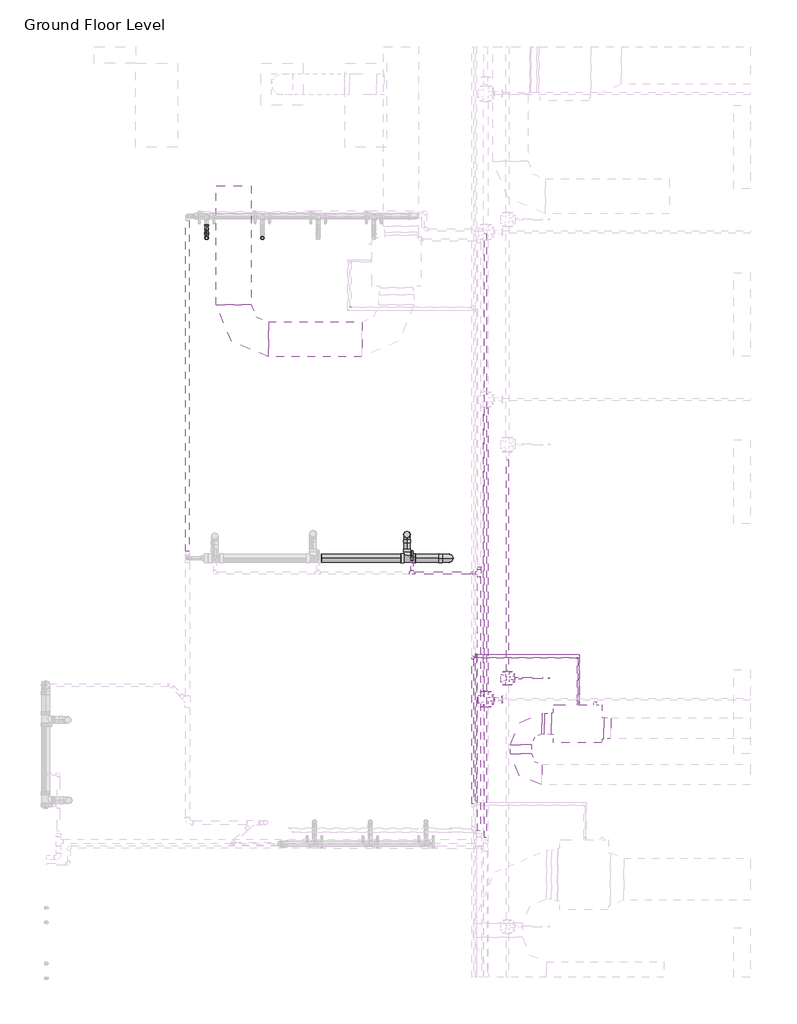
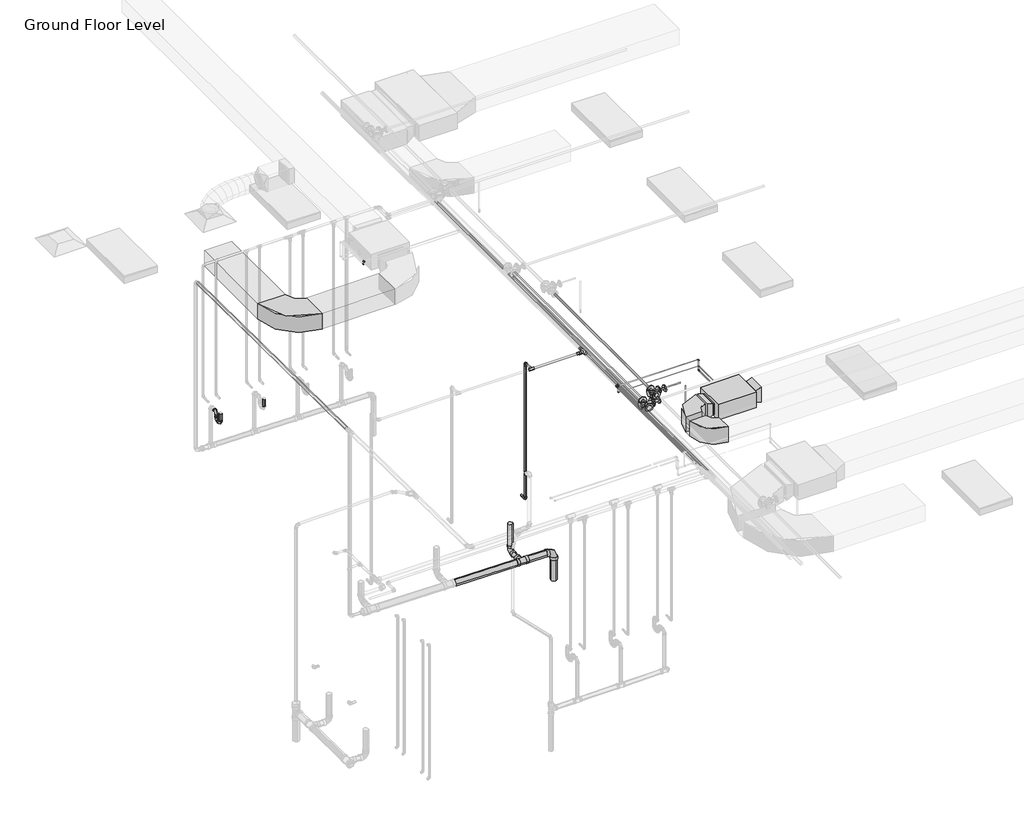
# One storey, part 21 of 75: 29 pipe segments, 26 pipe fittings, 5 duct fittings, 4 duct segments, 1 fire suppression terminal, 1 proxy.
"""IFC4 building model written with IfcOpenShell, lengths in millimetres."""

from ifc_helpers import new_model, si_unit, point, frame, frame_2d, origin, place, context, project, spatial, polyline, circle_curve, trimmed, segment, composite_curve, outline, extrude, transform, mapped, element, save
from components import fcu_daikin_iu_27d020f6, m_rectangular_elbow_radius_1_w_618da153, m_rectangular_elbow_radius_1_w_abe20169, m_rectangular_transition_angle_45_degree_bfac0661, m_rectangular_transition_angle_45_degree_d4666cfa, m_sprinkler_pendent_15_mm_pendent_06fcbd8e, m_bend_pvc_sch_40_dwv_standard_a4b99d37, m_bend_pvc_sch_40_dwv_standard_b7b4a97e, m_bend_pvc_sch_40_dwv_standard_1e7bdcc1, m_bend_pvc_sch_40_dwv_standard_776e50c4, m_elbow_generic_standard_a088f956, m_elbow_generic_standard_2a704253, m_reducer_flanged_cs_class_150_standard_d42b2106, m_reducer_flanged_cs_class_150_standard_a7631c35, m_tee_generic_standard_5b2ed4d4, m_tee_generic_standard_5078887e, m_tee_reducing_sanitary_pvc_sch_40_dwv_standard_b49161a9, m_tee_round_base_flanged_cs_class_150_standard_dd767e04, m_tee_round_base_flanged_cs_class_150_standard_7e5987a1, m_transition_generic_standard_44e35838, m_transition_generic_standard_2d362458, standard_517a5a8d, standard_72b35c3b, standard_08ff6011, standard_d0d0b892

model = new_model("IFC4")

# Units and contexts
model_context = context("Model", 3, world=origin())
ifc_project = project(units=[si_unit("LENGTHUNIT", "METRE", prefix="MILLI")], contexts=[model_context])

# Site, building, storey
site = spatial("IfcSite", under=ifc_project)
building = spatial("IfcBuilding", under=site)
storey = spatial("IfcBuildingStorey", under=building, Name="Ground Floor Level", Elevation=900.0)

# Proxy
placement = place(None, origin())
fcu_daikin_iu_shape = fcu_daikin_iu_27d020f6(model_context)
element("IfcBuildingElementProxy", 1, Name="FCU-DAIKIN IU : 2.3kW, 230V/50Hz/1Ph", ObjectType="FCU-DAIKIN IU : 2.3kW, 230V/50Hz/1Ph", at=placement, inside=storey, context=model_context, shape_type="MappedRepresentation", body=[
    mapped(fcu_daikin_iu_shape, transform((7003.8644074, -31136.6877703, 4080.0), x_axis=(0.0, 1.0, 0.0), y_axis=(-1.0, 0.0, 0.0), z_axis=(0.0, 0.0, 1.0))),
])

# Duct fittings
m_rectangular_elbow_radius_1_w_shape = m_rectangular_elbow_radius_1_w_618da153(model_context)
element("IfcDuctFitting", 2, ObjectType="M_Rectangular Elbow - Radius : 1 W", at=placement, inside=storey, context=model_context, shape_type="MappedRepresentation", body=[
    mapped(m_rectangular_elbow_radius_1_w_shape, transform((6188.4644074, -31136.6877703, 4221.2), x_axis=(-1.0, 0.0, 0.0), y_axis=(0.0, -1.0, 0.0), z_axis=(0.0, 0.0, 1.0))),
])
element("IfcDuctFitting", 3, ObjectType="M_Rectangular Elbow - Radius : 1 W", at=placement, inside=storey, context=model_context, shape_type="MappedRepresentation", body=[
    mapped(m_rectangular_elbow_radius_1_w_shape, transform((6188.4644074, -31864.7846466, 4221.2), x_axis=(0.0, -1.0, 0.0), y_axis=(1.0, 0.0, 0.0), z_axis=(0.0, 0.0, 1.0))),
])
m_rectangular_elbow_radius_1_w_2_shape = m_rectangular_elbow_radius_1_w_abe20169(model_context)
element("IfcDuctFitting", 4, ObjectType="M_Rectangular Elbow - Radius : 1 W", at=placement, inside=storey, context=model_context, shape_type="MappedRepresentation", body=[
    mapped(m_rectangular_elbow_radius_1_w_2_shape, transform((2065.6581888, -25622.6440715, 4075.2875), x_axis=(0.0, -1.0, 0.0), y_axis=(1.0, 0.0, 0.0), z_axis=(0.0, 0.0, 1.0))),
])
m_rectangular_transition_angle_45_degree_shape = m_rectangular_transition_angle_45_degree_bfac0661(model_context)
element("IfcDuctFitting", 5, ObjectType="M_Rectangular Transition - Angle : 45 Degree", at=placement, inside=storey, context=model_context, shape_type="MappedRepresentation", body=[
    mapped(m_rectangular_transition_angle_45_degree_shape, transform((6628.4644074, -31136.6877703, 4221.2), x_axis=(-1.0, 0.0, 0.0), y_axis=(0.0, -1.0, 0.0), z_axis=(0.0, 0.0, 1.0))),
])
m_rectangular_transition_angle_45_degree_2_shape = m_rectangular_transition_angle_45_degree_d4666cfa(model_context)
element("IfcDuctFitting", 6, ObjectType="M_Rectangular Transition - Angle : 45 Degree", at=placement, inside=storey, context=model_context, shape_type="MappedRepresentation", body=[
    mapped(m_rectangular_transition_angle_45_degree_2_shape, transform((7379.2644074, -31200.1877703, 4245.9125), x_axis=(1.0, 0.0, 0.0), y_axis=(0.0, 1.0, 0.0), z_axis=(0.0, 0.0, 1.0))),
])

# Duct segments
element("IfcDuctSegment", 7, ObjectType="Radius Elbows / Taps", at=placement, inside=storey, context=model_context, shape_type="SweptSolid", body=[
    extrude(outline(polyline([(0.0, -500.0), (0.0, 0.0), (1339.9999945, 0.0), (1339.9999945, -500.0), (0.0, -500.0)])), frame((3905.660192, -25872.6440715, 3925.3054453), z_axis=(-1.3392036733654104e-05, 0.0, 0.9999999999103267), x_axis=(-0.9999999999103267, 0.0, -1.3392036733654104e-05)), (0.0, 0.0, 1.0), 300.0),
])
element("IfcDuctSegment", 8, ObjectType="Radius Elbows / Taps", at=placement, inside=storey, context=model_context, shape_type="SweptSolid", body=[
    extrude(outline(polyline([(2315.6581888, -25122.6440715), (1815.6581888, -25122.6440715), (1815.6581888, -23422.6440715), (2315.6581888, -23422.6440715), (2315.6581888, -25122.6440715)])), frame((0.0, 0.0, 3925.2875), z_axis=(0.0, 0.0, 1.0), x_axis=(1.0, 0.0, 0.0)), (0.0, 0.0, 1.0), 300.0),
])
element("IfcDuctSegment", 9, ObjectType="Radius Elbows / Taps", at=placement, inside=storey, context=model_context, shape_type="SweptSolid", body=[
    extrude(outline(polyline([(6525.0153563, -30986.6877703), (6525.0153563, -31286.6877703), (6488.4644074, -31286.6877703), (6488.4644074, -30986.6877703), (6525.0153563, -30986.6877703)])), frame((0.0, 0.0, 4071.2), z_axis=(0.0, 0.0, 1.0), x_axis=(1.0, 0.0, 0.0)), (0.0, 0.0, 1.0), 300.0),
])
element("IfcDuctSegment", 10, ObjectType="Radius Elbows / Taps", at=placement, inside=storey, context=model_context, shape_type="SweptSolid", body=[
    extrude(outline(polyline([(6038.4644074, -31436.6877703), (6338.4644074, -31436.6877703), (6338.4644074, -31564.7846466), (6038.4644074, -31564.7846466), (6038.4644074, -31436.6877703)])), frame((0.0, 0.0, 4071.2), z_axis=(0.0, 0.0, 1.0), x_axis=(1.0, 0.0, 0.0)), (0.0, 0.0, 1.0), 300.0),
])

# Fire suppression terminal
m_sprinkler_pendent_15_mm_pendent_shape = m_sprinkler_pendent_15_mm_pendent_06fcbd8e(model_context)
element("IfcFireSuppressionTerminal", 11, ObjectType="M_Sprinkler - Pendent : 15 mm Pendent", at=placement, inside=storey, context=model_context, shape_type="MappedRepresentation", body=[
    mapped(m_sprinkler_pendent_15_mm_pendent_shape, transform((6592.5481019, -30483.0742399, 3650.0), x_axis=(1.0, 0.0, 0.0), y_axis=(0.0, 1.0, 0.0), z_axis=(0.0, 0.0, 1.0))),
])

# Pipe fittings
m_bend_pvc_sch_40_dwv_standard_shape = m_bend_pvc_sch_40_dwv_standard_a4b99d37(model_context)
element("IfcPipeFitting", 12, ObjectType="M_Bend - PVC - Sch 40 - DWV : Standard", at=placement, inside=storey, context=model_context, shape_type="MappedRepresentation", body=[
    mapped(m_bend_pvc_sch_40_dwv_standard_shape, transform((4553.7150181, -28421.2419494, 454.489269), x_axis=(0.0, 0.0, -1.0), y_axis=(0.0, -1.0, 0.0), z_axis=(-1.0, 0.0, 0.0))),
])
m_bend_pvc_sch_40_dwv_standard_2_shape = m_bend_pvc_sch_40_dwv_standard_b7b4a97e(model_context)
element("IfcPipeFitting", 13, ObjectType="M_Bend - PVC - Sch 40 - DWV : Standard", at=placement, inside=storey, context=model_context, shape_type="MappedRepresentation", body=[
    mapped(m_bend_pvc_sch_40_dwv_standard_2_shape, transform((5158.4803359, -28761.5689421, 448.4416158), x_axis=(0.9999500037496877, 0.0, -0.00999950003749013), y_axis=(-0.00999950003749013, 0.0, -0.9999500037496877), z_axis=(0.0, 1.0, 0.0))),
])
m_bend_pvc_sch_40_dwv_standard_3_shape = m_bend_pvc_sch_40_dwv_standard_1e7bdcc1(model_context)
element("IfcPipeFitting", 14, ObjectType="M_Bend - PVC - Sch 40 - DWV : Standard", at=placement, inside=storey, context=model_context, shape_type="MappedRepresentation", body=[
    mapped(m_bend_pvc_sch_40_dwv_standard_3_shape, transform((1679.14976, -24168.3528577, 1360.0000049), x_axis=(0.0, 0.0, -1.0), y_axis=(0.0, 1.0, 0.0), z_axis=(1.0, 0.0, 0.0))),
])
m_bend_pvc_sch_40_dwv_standard_4_shape = m_bend_pvc_sch_40_dwv_standard_776e50c4(model_context)
element("IfcPipeFitting", 15, ObjectType="M_Bend - PVC - Sch 40 - DWV : Standard", at=placement, inside=storey, context=model_context, shape_type="MappedRepresentation", body=[
    mapped(m_bend_pvc_sch_40_dwv_standard_4_shape, transform((1679.14976, -24038.3523645, 1358.7), x_axis=(0.0, 0.9999500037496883, -0.009999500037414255), y_axis=(0.0, 0.009999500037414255, 0.9999500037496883), z_axis=(1.0, 0.0, 0.0))),
])
element("IfcPipeFitting", 16, ObjectType="M_Bend - PVC - Sch 40 - DWV : Standard", at=placement, inside=storey, context=model_context, shape_type="MappedRepresentation", body=[
    mapped(m_bend_pvc_sch_40_dwv_standard_4_shape, transform((1679.14976, -24038.3523645, 1510.0493267), x_axis=(0.0, 0.0, 1.0), y_axis=(0.0, 1.0, 0.0), z_axis=(-1.0, 0.0, 0.0))),
])
m_elbow_generic_standard_shape = m_elbow_generic_standard_a088f956(model_context)
element("IfcPipeFitting", 17, ObjectType="M_Elbow - Generic : Standard", at=placement, inside=storey, context=model_context, shape_type="MappedRepresentation", body=[
    mapped(m_elbow_generic_standard_shape, transform((7003.8644074, -30187.4513653, 4390.0), x_axis=(1.0, 0.0, 0.0), y_axis=(0.0, 0.0, -1.0), z_axis=(0.0, 1.0, 0.0))),
])
element("IfcPipeFitting", 18, ObjectType="M_Elbow - Generic : Standard", at=placement, inside=storey, context=model_context, shape_type="MappedRepresentation", body=[
    mapped(m_elbow_generic_standard_shape, transform((7003.8644074, -30187.4513653, 4180.0), x_axis=(0.0, 0.0, -1.0), y_axis=(0.0, -1.0, 0.0), z_axis=(-1.0, 0.0, 0.0))),
])
element("IfcPipeFitting", 19, ObjectType="M_Elbow - Generic : Standard", at=placement, inside=storey, context=model_context, shape_type="MappedRepresentation", body=[
    mapped(m_elbow_generic_standard_shape, transform((3741.7995393, -25162.0896488, 4390.0), x_axis=(0.0, -1.0, 0.0), y_axis=(1.0, 0.0, 0.0), z_axis=(0.0, 0.0, 1.0))),
])
m_elbow_generic_standard_2_shape = m_elbow_generic_standard_2a704253(model_context)
element("IfcPipeFitting", 20, ObjectType="M_Elbow - Generic : Standard", at=placement, inside=storey, context=model_context, shape_type="MappedRepresentation", body=[
    mapped(m_elbow_generic_standard_2_shape, transform((3705.4496688, -25206.4899508, 4377.5), x_axis=(0.0, -1.0, 0.0), y_axis=(1.0, 0.0, 0.0), z_axis=(0.0, 0.0, 1.0))),
])
element("IfcPipeFitting", 21, ObjectType="M_Elbow - Generic : Standard", at=placement, inside=storey, context=model_context, shape_type="MappedRepresentation", body=[
    mapped(m_elbow_generic_standard_2_shape, transform((7028.8644074, -30144.9316538, 4230.8), x_axis=(0.0, 1.0, 0.0), y_axis=(-1.0, 0.0, 0.0), z_axis=(0.0, 0.0, 1.0))),
])
element("IfcPipeFitting", 22, ObjectType="M_Elbow - Generic : Standard", at=placement, inside=storey, context=model_context, shape_type="MappedRepresentation", body=[
    mapped(m_elbow_generic_standard_2_shape, transform((5543.9904113, -30144.9316538, 4230.8), x_axis=(0.0, 0.0, -1.0), y_axis=(1.0, 0.0, 0.0), z_axis=(0.0, -1.0, 0.0))),
])
m_reducer_flanged_cs_class_150_standard_shape = m_reducer_flanged_cs_class_150_standard_d42b2106(model_context)
element("IfcPipeFitting", 23, ObjectType="M_Reducer - Flanged - CS - Class 150 : Standard", at=placement, inside=storey, context=model_context, shape_type="MappedRepresentation", body=[
    mapped(m_reducer_flanged_cs_class_150_standard_shape, transform((6097.7664057, -30483.0742399, 4291.2754753), x_axis=(1.0, 0.0, 0.0), y_axis=(0.0, 0.0, -1.0), z_axis=(0.0, 1.0, 0.0))),
])
m_reducer_flanged_cs_class_150_standard_2_shape = m_reducer_flanged_cs_class_150_standard_a7631c35(model_context)
element("IfcPipeFitting", 24, ObjectType="M_Reducer - Flanged - CS - Class 150 : Standard", at=placement, inside=storey, context=model_context, shape_type="MappedRepresentation", body=[
    mapped(m_reducer_flanged_cs_class_150_standard_2_shape, transform((5798.6174894, -30785.1783804, 4347.5), x_axis=(1.0, 0.0, 0.0), y_axis=(0.0, 0.0, 1.0), z_axis=(0.0, -1.0, 0.0))),
])
m_tee_generic_standard_shape = m_tee_generic_standard_5b2ed4d4(model_context)
element("IfcPipeFitting", 25, ObjectType="M_Tee - Generic : Standard", at=placement, inside=storey, context=model_context, shape_type="MappedRepresentation", body=[
    mapped(m_tee_generic_standard_shape, transform((5543.9904113, -30144.9316538, 4377.5), x_axis=(0.0, -1.0, 0.0), y_axis=(0.0, 0.0, 1.0), z_axis=(-1.0, 0.0, 0.0))),
])
m_tee_generic_standard_2_shape = m_tee_generic_standard_5078887e(model_context)
element("IfcPipeFitting", 26, ObjectType="M_Tee - Generic : Standard", at=placement, inside=storey, context=model_context, shape_type="MappedRepresentation", body=[
    mapped(m_tee_generic_standard_2_shape, transform((5497.8951827, -30187.4513653, 4390.0), x_axis=(0.0, -1.0, 0.0), y_axis=(-1.0, 0.0, 0.0), z_axis=(0.0, 0.0, -1.0))),
])
m_tee_reducing_sanitary_pvc_sch_40_dwv_standard_shape = m_tee_reducing_sanitary_pvc_sch_40_dwv_standard_b49161a9(model_context)
element("IfcPipeFitting", 27, ObjectType="M_Tee Reducing Sanitary - PVC - Sch 40 - DWV : Standard", at=placement, inside=storey, context=model_context, shape_type="MappedRepresentation", body=[
    mapped(m_tee_reducing_sanitary_pvc_sch_40_dwv_standard_shape, transform((4553.7150181, -28761.5689421, 454.489269), x_axis=(-0.9999500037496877, 0.0, 0.009999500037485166), y_axis=(0.0, -1.0, 0.0), z_axis=(0.009999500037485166, 0.0, 0.9999500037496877))),
])
m_tee_round_base_flanged_cs_class_150_standard_shape = m_tee_round_base_flanged_cs_class_150_standard_dd767e04(model_context)
element("IfcPipeFitting", 28, ObjectType="M_Tee Round Base - Flanged - CS - Class 150 : Standard", at=placement, inside=storey, context=model_context, shape_type="MappedRepresentation", body=[
    mapped(m_tee_round_base_flanged_cs_class_150_standard_shape, transform((5684.6174894, -30785.1783804, 4347.5), x_axis=(0.0, -1.0, 0.0), y_axis=(-1.0, 0.0, 0.0), z_axis=(0.0, 0.0, -1.0))),
])
m_tee_round_base_flanged_cs_class_150_standard_2_shape = m_tee_round_base_flanged_cs_class_150_standard_7e5987a1(model_context)
element("IfcPipeFitting", 29, ObjectType="M_Tee Round Base - Flanged - CS - Class 150 : Standard", at=placement, inside=storey, context=model_context, shape_type="MappedRepresentation", body=[
    mapped(m_tee_round_base_flanged_cs_class_150_standard_2_shape, transform((5997.057812, -30483.0742399, 4291.0943441), x_axis=(0.0, 1.0, 0.0), y_axis=(-1.0, 0.0, 0.0), z_axis=(0.0, 0.0, 1.0))),
])
m_transition_generic_standard_shape = m_transition_generic_standard_44e35838(model_context)
element("IfcPipeFitting", 30, ObjectType="M_Transition - Generic : Standard", at=placement, inside=storey, context=model_context, shape_type="MappedRepresentation", body=[
    mapped(m_transition_generic_standard_shape, transform((5521.7076827, -30187.4513653, 4390.0), x_axis=(1.0, 0.0, 0.0), y_axis=(0.0, 1.0, 0.0), z_axis=(0.0, 0.0, 1.0))),
])
m_transition_generic_standard_2_shape = m_transition_generic_standard_2d362458(model_context)
element("IfcPipeFitting", 31, ObjectType="M_Transition - Generic : Standard", at=placement, inside=storey, context=model_context, shape_type="MappedRepresentation", body=[
    mapped(m_transition_generic_standard_2_shape, transform((5543.9904113, -30144.9316538, 4356.8625), x_axis=(0.0, 0.0, -1.0), y_axis=(1.0, 0.0, 0.0), z_axis=(0.0, -1.0, 0.0))),
])
standard_shape = standard_517a5a8d(model_context)
element("IfcPipeFitting", 32, ObjectType="M_Elbow - CPVC - Sch 40 : Standard", at=placement, inside=storey, context=model_context, shape_type="MappedRepresentation", body=[
    mapped(standard_shape, transform((4627.1152882, -28774.7846466, 1655.0), x_axis=(0.0, -1.0, 0.0), y_axis=(0.0, 0.0, 1.0), z_axis=(-1.0, 0.0, 0.0))),
])
element("IfcPipeFitting", 33, ObjectType="M_Elbow - CPVC - Sch 40 : Standard", at=placement, inside=storey, context=model_context, shape_type="MappedRepresentation", body=[
    mapped(standard_shape, transform((4627.1152882, -28774.7846466, 4300.0), x_axis=(0.0, 0.0, 1.0), y_axis=(0.0, -1.0, 0.0), z_axis=(1.0, 0.0, 0.0))),
])
standard_2_shape = standard_72b35c3b(model_context)
element("IfcPipeFitting", 34, ObjectType="M_Tee - CPVC - Sch 40 : Standard", at=placement, inside=storey, context=model_context, shape_type="MappedRepresentation", body=[
    mapped(standard_2_shape, transform((4627.1152882, -28974.7846466, 4300.0), x_axis=(-1.0, 0.0, 0.0), y_axis=(0.0, -1.0, 0.0), z_axis=(0.0, 0.0, 1.0))),
])
standard_3_shape = standard_08ff6011(model_context)
element("IfcPipeFitting", 35, ObjectType="M_Tee - CPVC - Sch 40 : Standard", at=placement, inside=storey, context=model_context, shape_type="MappedRepresentation", body=[
    mapped(standard_3_shape, transform((5589.646628, -28974.7846466, 4300.0), x_axis=(0.0, 1.0, 0.0), y_axis=(1.0, 0.0, 0.0), z_axis=(0.0, 0.0, -1.0))),
])
standard_4_shape = standard_d0d0b892(model_context)
element("IfcPipeFitting", 36, ObjectType="M_Coupling Reducing - CPVC - Sch 40 : Standard", at=placement, inside=storey, context=model_context, shape_type="MappedRepresentation", body=[
    mapped(standard_4_shape, transform((5589.646628, -28920.8096466, 4300.0), x_axis=(0.0, 1.0, 0.0), y_axis=(-1.0, 0.0, 0.0), z_axis=(0.0, 0.0, 1.0))),
])
element("IfcPipeFitting", 37, ObjectType="M_Coupling Reducing - CPVC - Sch 40 : Standard", at=placement, inside=storey, context=model_context, shape_type="MappedRepresentation", body=[
    mapped(standard_4_shape, transform((5535.671628, -28974.7846466, 4300.0), x_axis=(-1.0, 0.0, 0.0), y_axis=(0.0, -1.0, 0.0), z_axis=(0.0, 0.0, 1.0))),
])

# Pipe segments
element("IfcPipeSegment", 38, ObjectType="CPVC", at=placement, inside=storey, context=model_context, shape_type="SweptSolid", body=[
    extrude(outline(composite_curve([segment(trimmed(circle_curve(frame_2d((1655.0, 4627.1152882)), 16.7005), [point((1655.0, 4610.4147882))], [point((1638.2995, 4627.1152882))], False, "CARTESIAN"), True, "CONTINUOUS"), segment(trimmed(circle_curve(frame_2d((1655.0, 4627.1152882)), 16.7005), [point((1638.2995, 4627.1152882))], [point((1655.0, 4643.8157882))], False, "CARTESIAN"), True, "CONTINUOUS"), segment(trimmed(circle_curve(frame_2d((1655.0, 4627.1152882)), 16.7005), [point((1655.0, 4643.8157882))], [point((1671.7005, 4627.1152882))], False, "CARTESIAN"), True, "CONTINUOUS"), segment(trimmed(circle_curve(frame_2d((1655.0, 4627.1152882)), 16.7005), [point((1671.7005, 4627.1152882))], [point((1655.0, 4610.4147882))], False, "CARTESIAN"), True, "CONTINUOUS")], self_intersect=False)), frame((0.0, -28731.5220966, 0.0), z_axis=(0.0, 1.0, 0.0), x_axis=(0.0, 0.0, 1.0)), (0.0, 0.0, 1.0), 76.73745),
])
element("IfcPipeSegment", 39, ObjectType="CPVC", at=placement, inside=storey, context=model_context, shape_type="SweptSolid", body=[
    extrude(outline(composite_curve([segment(trimmed(circle_curve(frame_2d((4300.0, 4627.1152882)), 16.7005), [point((4300.0, 4610.4147882))], [point((4283.2995, 4627.1152882))], False, "CARTESIAN"), True, "CONTINUOUS"), segment(trimmed(circle_curve(frame_2d((4300.0, 4627.1152882)), 16.7005), [point((4283.2995, 4627.1152882))], [point((4300.0, 4643.8157882))], False, "CARTESIAN"), True, "CONTINUOUS"), segment(trimmed(circle_curve(frame_2d((4300.0, 4627.1152882)), 16.7005), [point((4300.0, 4643.8157882))], [point((4316.7005, 4627.1152882))], False, "CARTESIAN"), True, "CONTINUOUS"), segment(trimmed(circle_curve(frame_2d((4300.0, 4627.1152882)), 16.7005), [point((4316.7005, 4627.1152882))], [point((4300.0, 4610.4147882))], False, "CARTESIAN"), True, "CONTINUOUS")], self_intersect=False)), frame((0.0, -28935.0844466, 0.0), z_axis=(0.0, 1.0, 0.0), x_axis=(0.0, 0.0, 1.0)), (0.0, 0.0, 1.0), 117.03725),
])
element("IfcPipeSegment", 40, ObjectType="CPVC", at=placement, inside=storey, context=model_context, shape_type="SweptSolid", body=[
    extrude(outline(composite_curve([segment(trimmed(circle_curve(frame_2d((4627.1152882, -28774.7846466)), 16.7005), [point((4610.4147882, -28774.7846466))], [point((4627.1152882, -28758.0841466))], False, "CARTESIAN"), True, "CONTINUOUS"), segment(trimmed(circle_curve(frame_2d((4627.1152882, -28774.7846466)), 16.7005), [point((4627.1152882, -28758.0841466))], [point((4643.8157882, -28774.7846466))], False, "CARTESIAN"), True, "CONTINUOUS"), segment(trimmed(circle_curve(frame_2d((4627.1152882, -28774.7846466)), 16.7005), [point((4643.8157882, -28774.7846466))], [point((4627.1152882, -28791.4851466))], False, "CARTESIAN"), True, "CONTINUOUS"), segment(trimmed(circle_curve(frame_2d((4627.1152882, -28774.7846466)), 16.7005), [point((4627.1152882, -28791.4851466))], [point((4610.4147882, -28774.7846466))], False, "CARTESIAN"), True, "CONTINUOUS")], self_intersect=False)), frame((0.0, 0.0, 1698.26255), z_axis=(0.0, 0.0, 1.0), x_axis=(1.0, 0.0, 0.0)), (0.0, 0.0, 1.0), 2558.4749),
])
element("IfcPipeSegment", 41, ObjectType="CPVC", at=placement, inside=storey, context=model_context, shape_type="SweptSolid", body=[
    extrude(outline(composite_curve([segment(trimmed(circle_curve(frame_2d((-28974.7846466, 4300.0)), 16.7005), [point((-28958.0841466, 4300.0))], [point((-28974.7846466, 4283.2995))], False, "CARTESIAN"), True, "CONTINUOUS"), segment(trimmed(circle_curve(frame_2d((-28974.7846466, 4300.0)), 16.7005), [point((-28974.7846466, 4283.2995))], [point((-28991.4851466, 4300.0))], False, "CARTESIAN"), True, "CONTINUOUS"), segment(trimmed(circle_curve(frame_2d((-28974.7846466, 4300.0)), 16.7005), [point((-28991.4851466, 4300.0))], [point((-28974.7846466, 4316.7005))], False, "CARTESIAN"), True, "CONTINUOUS"), segment(trimmed(circle_curve(frame_2d((-28974.7846466, 4300.0)), 16.7005), [point((-28974.7846466, 4316.7005))], [point((-28958.0841466, 4300.0))], False, "CARTESIAN"), True, "CONTINUOUS")], self_intersect=False)), frame((4666.8154882, 0.0, 0.0), z_axis=(1.0, 0.0, 0.0), x_axis=(0.0, 1.0, 0.0)), (0.0, 0.0, 1.0), 802.7372648),
])
element("IfcPipeSegment", 42, ObjectType="CPVC", at=placement, inside=storey, context=model_context, shape_type="SweptSolid", body=[
    extrude(outline(composite_curve([segment(trimmed(circle_curve(frame_2d((4300.0, 5589.646628)), 21.082), [point((4300.0, 5568.564628))], [point((4278.918, 5589.646628))], False, "CARTESIAN"), True, "CONTINUOUS"), segment(trimmed(circle_curve(frame_2d((4300.0, 5589.646628)), 21.082), [point((4278.918, 5589.646628))], [point((4300.0, 5610.728628))], False, "CARTESIAN"), True, "CONTINUOUS"), segment(trimmed(circle_curve(frame_2d((4300.0, 5589.646628)), 21.082), [point((4300.0, 5610.728628))], [point((4321.082, 5589.646628))], False, "CARTESIAN"), True, "CONTINUOUS"), segment(trimmed(circle_curve(frame_2d((4300.0, 5589.646628)), 21.082), [point((4321.082, 5589.646628))], [point((4300.0, 5568.564628))], False, "CARTESIAN"), True, "CONTINUOUS")], self_intersect=False)), frame((0.0, -32672.9715951, 0.0), z_axis=(0.0, 1.0, 0.0), x_axis=(0.0, 0.0, 1.0)), (0.0, 0.0, 1.0), 3644.2119485),
])
element("IfcPipeSegment", 43, ObjectType="CPVC", at=placement, inside=storey, context=model_context, shape_type="SweptSolid", body=[
    extrude(outline(composite_curve([segment(trimmed(circle_curve(frame_2d((4250.0, 5680.5575802)), 16.7005), [point((4250.0, 5697.2580802))], [point((4266.7005, 5680.5575802))], False, "CARTESIAN"), True, "CONTINUOUS"), segment(trimmed(circle_curve(frame_2d((4250.0, 5680.5575802)), 16.7005), [point((4266.7005, 5680.5575802))], [point((4250.0, 5663.8570802))], False, "CARTESIAN"), True, "CONTINUOUS"), segment(trimmed(circle_curve(frame_2d((4250.0, 5680.5575802)), 16.7005), [point((4250.0, 5663.8570802))], [point((4233.2995, 5680.5575802))], False, "CARTESIAN"), True, "CONTINUOUS"), segment(trimmed(circle_curve(frame_2d((4250.0, 5680.5575802)), 16.7005), [point((4233.2995, 5680.5575802))], [point((4250.0, 5697.2580802))], False, "CARTESIAN"), True, "CONTINUOUS")], self_intersect=False)), frame((0.0, -32774.921633, 0.0), z_axis=(0.0, 1.0, 0.0), x_axis=(0.0, 0.0, 1.0)), (0.0, 0.0, 1.0), 8676.73745),
])
element("IfcPipeSegment", 44, ObjectType="Copper", at=placement, inside=storey, context=model_context, shape_type="SweptSolid", body=[
    extrude(outline(composite_curve([segment(trimmed(circle_curve(frame_2d((-30187.4513653, 4390.0)), 6.5), [point((-30193.9513653, 4390.0))], [point((-30187.4513653, 4396.5))], False, "CARTESIAN"), True, "CONTINUOUS"), segment(trimmed(circle_curve(frame_2d((-30187.4513653, 4390.0)), 6.5), [point((-30187.4513653, 4396.5))], [point((-30180.9513653, 4390.0))], False, "CARTESIAN"), True, "CONTINUOUS"), segment(trimmed(circle_curve(frame_2d((-30187.4513653, 4390.0)), 6.5), [point((-30180.9513653, 4390.0))], [point((-30187.4513653, 4383.5))], False, "CARTESIAN"), True, "CONTINUOUS"), segment(trimmed(circle_curve(frame_2d((-30187.4513653, 4390.0)), 6.5), [point((-30187.4513653, 4383.5))], [point((-30193.9513653, 4390.0))], False, "CARTESIAN"), True, "CONTINUOUS")], self_intersect=False)), frame((5527.2639327, 0.0, 0.0), z_axis=(1.0, 0.0, 0.0), x_axis=(0.0, 1.0, 0.0)), (0.0, 0.0, 1.0), 1462.3129748),
])
element("IfcPipeSegment", 45, ObjectType="Copper", at=placement, inside=storey, context=model_context, shape_type="SweptSolid", body=[
    extrude(outline(composite_curve([segment(trimmed(circle_curve(frame_2d((4390.0, 5497.8951827)), 9.75), [point((4390.0, 5507.6451827))], [point((4399.75, 5497.8951827))], False, "CARTESIAN"), True, "CONTINUOUS"), segment(trimmed(circle_curve(frame_2d((4390.0, 5497.8951827)), 9.75), [point((4399.75, 5497.8951827))], [point((4390.0, 5488.1451827))], False, "CARTESIAN"), True, "CONTINUOUS"), segment(trimmed(circle_curve(frame_2d((4390.0, 5497.8951827)), 9.75), [point((4390.0, 5488.1451827))], [point((4380.25, 5497.8951827))], False, "CARTESIAN"), True, "CONTINUOUS"), segment(trimmed(circle_curve(frame_2d((4390.0, 5497.8951827)), 9.75), [point((4380.25, 5497.8951827))], [point((4390.0, 5507.6451827))], False, "CARTESIAN"), True, "CONTINUOUS")], self_intersect=False)), frame((0.0, -32283.6388653, 0.0), z_axis=(0.0, 1.0, 0.0), x_axis=(0.0, 0.0, 1.0)), (0.0, 0.0, 1.0), 2072.375),
])
element("IfcPipeSegment", 46, ObjectType="Copper", at=placement, inside=storey, context=model_context, shape_type="SweptSolid", body=[
    extrude(outline(composite_curve([segment(trimmed(circle_curve(frame_2d((4180.0, 7003.8644074)), 6.5), [point((4180.0, 6997.3644074))], [point((4173.5, 7003.8644074))], False, "CARTESIAN"), True, "CONTINUOUS"), segment(trimmed(circle_curve(frame_2d((4180.0, 7003.8644074)), 6.5), [point((4173.5, 7003.8644074))], [point((4180.0, 7010.3644074))], False, "CARTESIAN"), True, "CONTINUOUS"), segment(trimmed(circle_curve(frame_2d((4180.0, 7003.8644074)), 6.5), [point((4180.0, 7010.3644074))], [point((4186.5, 7003.8644074))], False, "CARTESIAN"), True, "CONTINUOUS"), segment(trimmed(circle_curve(frame_2d((4180.0, 7003.8644074)), 6.5), [point((4186.5, 7003.8644074))], [point((4180.0, 6997.3644074))], False, "CARTESIAN"), True, "CONTINUOUS")], self_intersect=False)), frame((0.0, -30823.5877703, 0.0), z_axis=(0.0, 1.0, 0.0), x_axis=(0.0, 0.0, 1.0)), (0.0, 0.0, 1.0), 621.8489049),
])
element("IfcPipeSegment", 47, ObjectType="Copper", at=placement, inside=storey, context=model_context, shape_type="SweptSolid", body=[
    extrude(outline(composite_curve([segment(trimmed(circle_curve(frame_2d((4230.8, 7028.8644074)), 3.35), [point((4230.8, 7025.5144074))], [point((4227.45, 7028.8644074))], False, "CARTESIAN"), True, "CONTINUOUS"), segment(trimmed(circle_curve(frame_2d((4230.8, 7028.8644074)), 3.35), [point((4227.45, 7028.8644074))], [point((4230.8, 7032.2144074))], False, "CARTESIAN"), True, "CONTINUOUS"), segment(trimmed(circle_curve(frame_2d((4230.8, 7028.8644074)), 3.35), [point((4230.8, 7032.2144074))], [point((4234.15, 7028.8644074))], False, "CARTESIAN"), True, "CONTINUOUS"), segment(trimmed(circle_curve(frame_2d((4230.8, 7028.8644074)), 3.35), [point((4234.15, 7028.8644074))], [point((4230.8, 7025.5144074))], False, "CARTESIAN"), True, "CONTINUOUS")], self_intersect=False)), frame((0.0, -30823.5877703, 0.0), z_axis=(0.0, 1.0, 0.0), x_axis=(0.0, 0.0, 1.0)), (0.0, 0.0, 1.0), 667.5186165),
])
element("IfcPipeSegment", 48, ObjectType="Copper", at=placement, inside=storey, context=model_context, shape_type="SweptSolid", body=[
    extrude(outline(composite_curve([segment(trimmed(circle_curve(frame_2d((7003.8644074, -30187.4513653)), 6.5), [point((7010.3644074, -30187.4513653))], [point((7003.8644074, -30193.9513653))], False, "CARTESIAN"), True, "CONTINUOUS"), segment(trimmed(circle_curve(frame_2d((7003.8644074, -30187.4513653)), 6.5), [point((7003.8644074, -30193.9513653))], [point((6997.3644074, -30187.4513653))], False, "CARTESIAN"), True, "CONTINUOUS"), segment(trimmed(circle_curve(frame_2d((7003.8644074, -30187.4513653)), 6.5), [point((6997.3644074, -30187.4513653))], [point((7003.8644074, -30180.9513653))], False, "CARTESIAN"), True, "CONTINUOUS"), segment(trimmed(circle_curve(frame_2d((7003.8644074, -30187.4513653)), 6.5), [point((7003.8644074, -30180.9513653))], [point((7010.3644074, -30187.4513653))], False, "CARTESIAN"), True, "CONTINUOUS")], self_intersect=False)), frame((0.0, 0.0, 4194.2875), z_axis=(0.0, 0.0, 1.0), x_axis=(1.0, 0.0, 0.0)), (0.0, 0.0, 1.0), 181.425),
])
element("IfcPipeSegment", 49, ObjectType="Copper", at=placement, inside=storey, context=model_context, shape_type="SweptSolid", body=[
    extrude(outline(composite_curve([segment(trimmed(circle_curve(frame_2d((4377.5, 5543.9904113)), 6.5), [point((4377.5, 5550.4904113))], [point((4384.0, 5543.9904113))], False, "CARTESIAN"), True, "CONTINUOUS"), segment(trimmed(circle_curve(frame_2d((4377.5, 5543.9904113)), 6.5), [point((4384.0, 5543.9904113))], [point((4377.5, 5537.4904113))], False, "CARTESIAN"), True, "CONTINUOUS"), segment(trimmed(circle_curve(frame_2d((4377.5, 5543.9904113)), 6.5), [point((4377.5, 5537.4904113))], [point((4371.0, 5543.9904113))], False, "CARTESIAN"), True, "CONTINUOUS"), segment(trimmed(circle_curve(frame_2d((4377.5, 5543.9904113)), 6.5), [point((4371.0, 5543.9904113))], [point((4377.5, 5550.4904113))], False, "CARTESIAN"), True, "CONTINUOUS")], self_intersect=False)), frame((0.0, -32244.2941538, 0.0), z_axis=(0.0, 1.0, 0.0), x_axis=(0.0, 0.0, 1.0)), (0.0, 0.0, 1.0), 2078.725),
])
element("IfcPipeSegment", 50, ObjectType="Copper", at=placement, inside=storey, context=model_context, shape_type="SweptSolid", body=[
    extrude(outline(composite_curve([segment(trimmed(circle_curve(frame_2d((5543.9904113, -30144.9316538)), 3.35), [point((5547.3404113, -30144.9316538))], [point((5543.9904113, -30148.2816538))], False, "CARTESIAN"), True, "CONTINUOUS"), segment(trimmed(circle_curve(frame_2d((5543.9904113, -30144.9316538)), 3.35), [point((5543.9904113, -30148.2816538))], [point((5540.6404113, -30144.9316538))], False, "CARTESIAN"), True, "CONTINUOUS"), segment(trimmed(circle_curve(frame_2d((5543.9904113, -30144.9316538)), 3.35), [point((5540.6404113, -30144.9316538))], [point((5543.9904113, -30141.5816538))], False, "CARTESIAN"), True, "CONTINUOUS"), segment(trimmed(circle_curve(frame_2d((5543.9904113, -30144.9316538)), 3.35), [point((5543.9904113, -30141.5816538))], [point((5547.3404113, -30144.9316538))], False, "CARTESIAN"), True, "CONTINUOUS")], self_intersect=False)), frame((0.0, 0.0, 4241.9375), z_axis=(0.0, 0.0, 1.0), x_axis=(1.0, 0.0, 0.0)), (0.0, 0.0, 1.0), 110.95625),
])
element("IfcPipeSegment", 51, ObjectType="Copper", at=placement, inside=storey, context=model_context, shape_type="SweptSolid", body=[
    extrude(outline(composite_curve([segment(trimmed(circle_curve(frame_2d((-30144.9316538, 4230.8)), 3.35), [point((-30148.2816538, 4230.8))], [point((-30144.9316538, 4234.15))], False, "CARTESIAN"), True, "CONTINUOUS"), segment(trimmed(circle_curve(frame_2d((-30144.9316538, 4230.8)), 3.35), [point((-30144.9316538, 4234.15))], [point((-30141.5816538, 4230.8))], False, "CARTESIAN"), True, "CONTINUOUS"), segment(trimmed(circle_curve(frame_2d((-30144.9316538, 4230.8)), 3.35), [point((-30141.5816538, 4230.8))], [point((-30144.9316538, 4227.45))], False, "CARTESIAN"), True, "CONTINUOUS"), segment(trimmed(circle_curve(frame_2d((-30144.9316538, 4230.8)), 3.35), [point((-30144.9316538, 4227.45))], [point((-30148.2816538, 4230.8))], False, "CARTESIAN"), True, "CONTINUOUS")], self_intersect=False)), frame((5555.1279113, 0.0, 0.0), z_axis=(1.0, 0.0, 0.0), x_axis=(0.0, 1.0, 0.0)), (0.0, 0.0, 1.0), 1462.5989961),
])
element("IfcPipeSegment", 52, ObjectType="PVC - DWV", at=placement, inside=storey, context=model_context, shape_type="SweptSolid", body=[
    extrude(outline(composite_curve([segment(trimmed(circle_curve(frame_2d((1679.14976, -24168.3528577)), 24.13), [point((1703.27976, -24168.3528577))], [point((1679.14976, -24192.4828577))], False, "CARTESIAN"), True, "CONTINUOUS"), segment(trimmed(circle_curve(frame_2d((1679.14976, -24168.3528577)), 24.13), [point((1679.14976, -24192.4828577))], [point((1655.01976, -24168.3528577))], False, "CARTESIAN"), True, "CONTINUOUS"), segment(trimmed(circle_curve(frame_2d((1679.14976, -24168.3528577)), 24.13), [point((1655.01976, -24168.3528577))], [point((1679.14976, -24144.2228577))], False, "CARTESIAN"), True, "CONTINUOUS"), segment(trimmed(circle_curve(frame_2d((1679.14976, -24168.3528577)), 24.13), [point((1679.14976, -24144.2228577))], [point((1703.27976, -24168.3528577))], False, "CARTESIAN"), True, "CONTINUOUS")], self_intersect=False)), frame((0.0, 0.0, 1421.8998049), z_axis=(0.0, 0.0, 1.0), x_axis=(1.0, 0.0, 0.0)), (0.0, 0.0, 1.0), 128.1001951),
])
element("IfcPipeSegment", 53, ObjectType="PVC - DWV", at=placement, inside=storey, context=model_context, shape_type="SweptSolid", body=[
    extrude(outline(composite_curve([segment(trimmed(circle_curve(frame_2d((0.0, -24.1299999)), 24.13), [point((24.13, -24.1299999))], [point((0.0, -48.2599999))], False, "CARTESIAN"), True, "CONTINUOUS"), segment(trimmed(circle_curve(frame_2d((0.0, -24.1299999)), 24.13), [point((0.0, -48.2599999))], [point((-24.13, -24.1299999))], False, "CARTESIAN"), True, "CONTINUOUS"), segment(trimmed(circle_curve(frame_2d((0.0, -24.1299999)), 24.13), [point((-24.13, -24.1299999))], [point((0.0, 0.0))], False, "CARTESIAN"), True, "CONTINUOUS"), segment(trimmed(circle_curve(frame_2d((0.0, -24.1299999)), 24.13), [point((0.0, 0.0))], [point((24.13, -24.1299999))], False, "CARTESIAN"), True, "CONTINUOUS")], self_intersect=False)), frame((1679.14976, -24100.0077818, 1383.4477606), z_axis=(0.0, -0.9999500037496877, 0.009999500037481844), x_axis=(1.0, 0.0, 0.0)), (0.0, 0.0, 1.0), 6.2073931),
])
element("IfcPipeSegment", 54, ObjectType="PVC - DWV", at=placement, inside=storey, context=model_context, shape_type="SweptSolid", body=[
    extrude(outline(composite_curve([segment(trimmed(circle_curve(frame_2d((1679.14976, -24038.3523645)), 24.13), [point((1655.01976, -24038.3523645))], [point((1679.14976, -24014.2223645))], False, "CARTESIAN"), True, "CONTINUOUS"), segment(trimmed(circle_curve(frame_2d((1679.14976, -24038.3523645)), 24.13), [point((1679.14976, -24014.2223645))], [point((1703.27976, -24038.3523645))], False, "CARTESIAN"), True, "CONTINUOUS"), segment(trimmed(circle_curve(frame_2d((1679.14976, -24038.3523645)), 24.13), [point((1703.27976, -24038.3523645))], [point((1679.14976, -24062.4823645))], False, "CARTESIAN"), True, "CONTINUOUS"), segment(trimmed(circle_curve(frame_2d((1679.14976, -24038.3523645)), 24.13), [point((1679.14976, -24062.4823645))], [point((1655.01976, -24038.3523645))], False, "CARTESIAN"), True, "CONTINUOUS")], self_intersect=False)), frame((0.0, 0.0, 1420.5998), z_axis=(0.0, 0.0, 1.0), x_axis=(1.0, 0.0, 0.0)), (0.0, 0.0, 1.0), 27.5497267),
])
element("IfcPipeSegment", 55, ObjectType="PVC - DWV", at=placement, inside=storey, context=model_context, shape_type="SweptSolid", body=[
    extrude(outline(composite_curve([segment(trimmed(circle_curve(frame_2d((2479.14976, -24168.3528577)), 24.13), [point((2455.01976, -24168.3528577))], [point((2479.14976, -24144.2228577))], False, "CARTESIAN"), True, "CONTINUOUS"), segment(trimmed(circle_curve(frame_2d((2479.14976, -24168.3528577)), 24.13), [point((2479.14976, -24144.2228577))], [point((2503.27976, -24168.3528577))], False, "CARTESIAN"), True, "CONTINUOUS"), segment(trimmed(circle_curve(frame_2d((2479.14976, -24168.3528577)), 24.13), [point((2503.27976, -24168.3528577))], [point((2479.14976, -24192.4828577))], False, "CARTESIAN"), True, "CONTINUOUS"), segment(trimmed(circle_curve(frame_2d((2479.14976, -24168.3528577)), 24.13), [point((2479.14976, -24192.4828577))], [point((2455.01976, -24168.3528577))], False, "CARTESIAN"), True, "CONTINUOUS")], self_intersect=False)), frame((0.0, 0.0, 1421.89981), z_axis=(0.0, 0.0, 1.0), x_axis=(1.0, 0.0, 0.0)), (0.0, 0.0, 1.0), 128.10019),
])
element("IfcPipeSegment", 56, ObjectType="PVC - DWV", at=placement, inside=storey, context=model_context, shape_type="SweptSolid", body=[
    extrude(outline(composite_curve([segment(trimmed(circle_curve(frame_2d((0.0, -24.1299999)), 24.13), [point((24.13, -24.1299999))], [point((0.0, -48.2599999))], False, "CARTESIAN"), True, "CONTINUOUS"), segment(trimmed(circle_curve(frame_2d((0.0, -24.1299999)), 24.13), [point((0.0, -48.2599999))], [point((-24.13, -24.1299999))], False, "CARTESIAN"), True, "CONTINUOUS"), segment(trimmed(circle_curve(frame_2d((0.0, -24.1299999)), 24.13), [point((-24.13, -24.1299999))], [point((0.0, 0.0))], False, "CARTESIAN"), True, "CONTINUOUS"), segment(trimmed(circle_curve(frame_2d((0.0, -24.1299999)), 24.13), [point((0.0, 0.0))], [point((24.13, -24.1299999))], False, "CARTESIAN"), True, "CONTINUOUS")], self_intersect=False)), frame((2479.14976, -24100.0072752, 1383.4477606), z_axis=(0.0, -0.9999500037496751, 0.009999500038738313), x_axis=(1.0, 0.0, 0.0)), (0.0, 0.0, 1.0), 6.2078997),
])
element("IfcPipeSegment", 57, ObjectType="PVC - DWV", at=placement, inside=storey, context=model_context, shape_type="SweptSolid", body=[
    extrude(outline(composite_curve([segment(trimmed(circle_curve(frame_2d((0.0, -57.15)), 57.15), [point((-57.15, -57.15))], [point((0.0, 0.0))], False, "CARTESIAN"), True, "CONTINUOUS"), segment(trimmed(circle_curve(frame_2d((0.0, -57.15)), 57.15), [point((0.0, 0.0))], [point((57.15, -57.15))], False, "CARTESIAN"), True, "CONTINUOUS"), segment(trimmed(circle_curve(frame_2d((0.0, -57.15)), 57.15), [point((57.15, -57.15))], [point((0.0, -114.3))], False, "CARTESIAN"), True, "CONTINUOUS"), segment(trimmed(circle_curve(frame_2d((0.0, -57.15)), 57.15), [point((0.0, -114.3))], [point((-57.15, -57.15))], False, "CARTESIAN"), True, "CONTINUOUS")], self_intersect=False)), frame((5158.4418398, -28818.7189421, -100.0), z_axis=(9.491942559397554e-05, 0.0, 0.9999999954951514), x_axis=(-0.9999999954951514, 0.0, 9.491942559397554e-05)), (0.0, 0.0, 1.0), 405.5666177),
])
element("IfcPipeSegment", 58, ObjectType="PVC - DWV", at=placement, inside=storey, context=model_context, shape_type="SweptSolid", body=[
    extrude(outline(composite_curve([segment(trimmed(circle_curve(frame_2d((0.0, -44.45)), 44.45), [point((-44.45, -44.45))], [point((0.0, 0.0))], False, "CARTESIAN"), True, "CONTINUOUS"), segment(trimmed(circle_curve(frame_2d((0.0, -44.45)), 44.45), [point((0.0, 0.0))], [point((44.45, -44.45))], False, "CARTESIAN"), True, "CONTINUOUS"), segment(trimmed(circle_curve(frame_2d((0.0, -44.45)), 44.45), [point((44.45, -44.45))], [point((0.0, -88.9))], False, "CARTESIAN"), True, "CONTINUOUS"), segment(trimmed(circle_curve(frame_2d((0.0, -44.45)), 44.45), [point((0.0, -88.9))], [point((-44.45, -44.45))], False, "CARTESIAN"), True, "CONTINUOUS")], self_intersect=False)), frame((4553.7150181, -28465.6919494, 570.389469), z_axis=(-1.0723158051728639e-05, 0.0, 0.999999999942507), x_axis=(-0.999999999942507, 0.0, -1.0723158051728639e-05)), (0.0, 0.0, 1.0), 419.610531),
])
element("IfcPipeSegment", 59, ObjectType="PVC - DWV", at=placement, inside=storey, context=model_context, shape_type="SweptSolid", body=[
    extrude(outline(composite_curve([segment(trimmed(circle_curve(frame_2d((454.489269, 4553.7150181)), 44.45), [point((454.489269, 4509.2650181))], [point((410.039269, 4553.7150181))], False, "CARTESIAN"), True, "CONTINUOUS"), segment(trimmed(circle_curve(frame_2d((454.489269, 4553.7150181)), 44.45), [point((410.039269, 4553.7150181))], [point((454.489269, 4598.1650181))], False, "CARTESIAN"), True, "CONTINUOUS"), segment(trimmed(circle_curve(frame_2d((454.489269, 4553.7150181)), 44.45), [point((454.489269, 4598.1650181))], [point((498.939269, 4553.7150181))], False, "CARTESIAN"), True, "CONTINUOUS"), segment(trimmed(circle_curve(frame_2d((454.489269, 4553.7150181)), 44.45), [point((498.939269, 4553.7150181))], [point((454.489269, 4509.2650181))], False, "CARTESIAN"), True, "CONTINUOUS")], self_intersect=False)), frame((0.0, -28632.9687421, 0.0), z_axis=(0.0, 1.0, 0.0), x_axis=(0.0, 0.0, 1.0)), (0.0, 0.0, 1.0), 95.8265928),
])
element("IfcPipeSegment", 60, ObjectType="PVC - DWV", at=placement, inside=storey, context=model_context, shape_type="SweptSolid", body=[
    extrude(outline(composite_curve([segment(trimmed(circle_curve(frame_2d((0.0, -57.15)), 57.15), [point((0.0, -114.3))], [point((-57.15, -57.15))], False, "CARTESIAN"), True, "CONTINUOUS"), segment(trimmed(circle_curve(frame_2d((0.0, -57.15)), 57.15), [point((-57.15, -57.15))], [point((0.0, 0.0))], False, "CARTESIAN"), True, "CONTINUOUS"), segment(trimmed(circle_curve(frame_2d((0.0, -57.15)), 57.15), [point((0.0, 0.0))], [point((57.15, -57.15))], False, "CARTESIAN"), True, "CONTINUOUS"), segment(trimmed(circle_curve(frame_2d((0.0, -57.15)), 57.15), [point((57.15, -57.15))], [point((0.0, -114.3))], False, "CARTESIAN"), True, "CONTINUOUS")], self_intersect=False)), frame((5015.6124792, -28704.4189421, 449.8702944), z_axis=(-0.9999500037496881, 0.0, 0.009999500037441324), x_axis=(0.009999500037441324, 0.0, 0.9999500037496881)), (0.0, 0.0, 1.0), 341.2705553),
])
element("IfcPipeSegment", 61, ObjectType="PVC - DWV", at=placement, inside=storey, context=model_context, shape_type="SweptSolid", body=[
    extrude(outline(composite_curve([segment(trimmed(circle_curve(frame_2d((0.0, -57.15)), 57.15), [point((0.0, -114.3))], [point((-57.15, -57.15))], False, "CARTESIAN"), True, "CONTINUOUS"), segment(trimmed(circle_curve(frame_2d((0.0, -57.15)), 57.15), [point((-57.15, -57.15))], [point((0.0, 0.0))], False, "CARTESIAN"), True, "CONTINUOUS"), segment(trimmed(circle_curve(frame_2d((0.0, -57.15)), 57.15), [point((0.0, 0.0))], [point((57.15, -57.15))], False, "CARTESIAN"), True, "CONTINUOUS"), segment(trimmed(circle_curve(frame_2d((0.0, -57.15)), 57.15), [point((57.15, -57.15))], [point((0.0, -114.3))], False, "CARTESIAN"), True, "CONTINUOUS")], self_intersect=False)), frame((4464.8194628, -28704.4189421, 455.3782246), z_axis=(-0.9999500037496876, 0.0, 0.009999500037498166), x_axis=(0.009999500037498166, 0.0, 0.9999500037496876)), (0.0, 0.0, 1.0), 1140.6268663),
])
element("IfcPipeSegment", 62, ObjectType="PVC - DWV", at=placement, inside=storey, context=model_context, shape_type="SweptSolid", body=[
    extrude(outline(composite_curve([segment(trimmed(circle_curve(frame_2d((0.0, 24.13)), 24.13), [point((-24.13, 24.13))], [point((0.0, 48.2599999))], False, "CARTESIAN"), True, "CONTINUOUS"), segment(trimmed(circle_curve(frame_2d((0.0, 24.13)), 24.13), [point((0.0, 48.2599999))], [point((24.13, 24.13))], False, "CARTESIAN"), True, "CONTINUOUS"), segment(trimmed(circle_curve(frame_2d((0.0, 24.13)), 24.13), [point((24.13, 24.13))], [point((0.0, 0.0))], False, "CARTESIAN"), True, "CONTINUOUS"), segment(trimmed(circle_curve(frame_2d((0.0, 24.13)), 24.13), [point((0.0, 0.0))], [point((-24.13, 24.13))], False, "CARTESIAN"), True, "CONTINUOUS")], self_intersect=False)), frame((1404.8829692, -23916.4515084, 4014.4188166), z_axis=(0.0, -0.9999500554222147, 0.009994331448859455), x_axis=(1.0, 0.0, 0.0)), (0.0, 0.0, 1.0), 4748.0987004),
])
element("IfcPipeSegment", 63, ObjectType="Steel flanged", at=placement, inside=storey, context=model_context, shape_type="SweptSolid", body=[
    extrude(outline(composite_curve([segment(trimmed(circle_curve(frame_2d((6592.5481019, -30483.0742399)), 10.668), [point((6581.8801019, -30483.0742399))], [point((6592.5481019, -30472.4062399))], False, "CARTESIAN"), True, "CONTINUOUS"), segment(trimmed(circle_curve(frame_2d((6592.5481019, -30483.0742399)), 10.668), [point((6592.5481019, -30472.4062399))], [point((6603.2161019, -30483.0742399))], False, "CARTESIAN"), True, "CONTINUOUS"), segment(trimmed(circle_curve(frame_2d((6592.5481019, -30483.0742399)), 10.668), [point((6603.2161019, -30483.0742399))], [point((6592.5481019, -30493.7422399))], False, "CARTESIAN"), True, "CONTINUOUS"), segment(trimmed(circle_curve(frame_2d((6592.5481019, -30483.0742399)), 10.668), [point((6592.5481019, -30493.7422399))], [point((6581.8801019, -30483.0742399))], False, "CARTESIAN"), True, "CONTINUOUS")], self_intersect=False)), frame((0.0, 0.0, 3650.0), z_axis=(0.0, 0.0, 1.0), x_axis=(1.0, 0.0, 0.0)), (0.0, 0.0, 1.0), 548.2668816),
])
element("IfcPipeSegment", 64, ObjectType="Steel flanged", at=placement, inside=storey, context=model_context, shape_type="SweptSolid", body=[
    extrude(outline(composite_curve([segment(trimmed(circle_curve(frame_2d((-30483.0742399, 4291.2754753)), 10.668), [point((-30472.4062399, 4291.2754753))], [point((-30483.0742399, 4280.6074753))], False, "CARTESIAN"), True, "CONTINUOUS"), segment(trimmed(circle_curve(frame_2d((-30483.0742399, 4291.2754753)), 10.668), [point((-30483.0742399, 4280.6074753))], [point((-30493.7422399, 4291.2754753))], False, "CARTESIAN"), True, "CONTINUOUS"), segment(trimmed(circle_curve(frame_2d((-30483.0742399, 4291.2754753)), 10.668), [point((-30493.7422399, 4291.2754753))], [point((-30483.0742399, 4301.9434753))], False, "CARTESIAN"), True, "CONTINUOUS"), segment(trimmed(circle_curve(frame_2d((-30483.0742399, 4291.2754753)), 10.668), [point((-30483.0742399, 4301.9434753))], [point((-30472.4062399, 4291.2754753))], False, "CARTESIAN"), True, "CONTINUOUS")], self_intersect=False)), frame((6211.7664057, 0.0, 0.0), z_axis=(1.0, 0.0, 0.0), x_axis=(0.0, 1.0, 0.0)), (0.0, 0.0, 1.0), 287.7731025),
])
element("IfcPipeSegment", 65, ObjectType="Steel flanged", at=placement, inside=storey, context=model_context, shape_type="SweptSolid", body=[
    extrude(outline(composite_curve([segment(trimmed(circle_curve(frame_2d((4291.0943441, 5997.057812)), 16.7005), [point((4291.0943441, 5980.357312))], [point((4274.3938441, 5997.057812))], False, "CARTESIAN"), True, "CONTINUOUS"), segment(trimmed(circle_curve(frame_2d((4291.0943441, 5997.057812)), 16.7005), [point((4274.3938441, 5997.057812))], [point((4291.0943441, 6013.758312))], False, "CARTESIAN"), True, "CONTINUOUS"), segment(trimmed(circle_curve(frame_2d((4291.0943441, 5997.057812)), 16.7005), [point((4291.0943441, 6013.758312))], [point((4307.7948441, 5997.057812))], False, "CARTESIAN"), True, "CONTINUOUS"), segment(trimmed(circle_curve(frame_2d((4291.0943441, 5997.057812)), 16.7005), [point((4307.7948441, 5997.057812))], [point((4291.0943441, 5980.357312))], False, "CARTESIAN"), True, "CONTINUOUS")], self_intersect=False)), frame((0.0, -30382.3656461, 0.0), z_axis=(0.0, 1.0, 0.0), x_axis=(0.0, 0.0, 1.0)), (0.0, 0.0, 1.0), 3032.8688165),
])
element("IfcPipeSegment", 66, ObjectType="Steel flanged", at=placement, inside=storey, context=model_context, shape_type="SweptSolid", body=[
    extrude(outline(composite_curve([segment(trimmed(circle_curve(frame_2d((4347.5, 5684.6174894)), 30.1625), [point((4347.5, 5714.7799894))], [point((4377.6625, 5684.6174894))], False, "CARTESIAN"), True, "CONTINUOUS"), segment(trimmed(circle_curve(frame_2d((4347.5, 5684.6174894)), 30.1625), [point((4377.6625, 5684.6174894))], [point((4347.5, 5654.4549894))], False, "CARTESIAN"), True, "CONTINUOUS"), segment(trimmed(circle_curve(frame_2d((4347.5, 5684.6174894)), 30.1625), [point((4347.5, 5654.4549894))], [point((4317.3375, 5684.6174894))], False, "CARTESIAN"), True, "CONTINUOUS"), segment(trimmed(circle_curve(frame_2d((4347.5, 5684.6174894)), 30.1625), [point((4317.3375, 5684.6174894))], [point((4347.5, 5714.7799894))], False, "CARTESIAN"), True, "CONTINUOUS")], self_intersect=False)), frame((0.0, -30671.1783804, 0.0), z_axis=(0.0, 1.0, 0.0), x_axis=(0.0, 0.0, 1.0)), (0.0, 0.0, 1.0), 4072.5488372),
])

save(model, "model.ifc")
